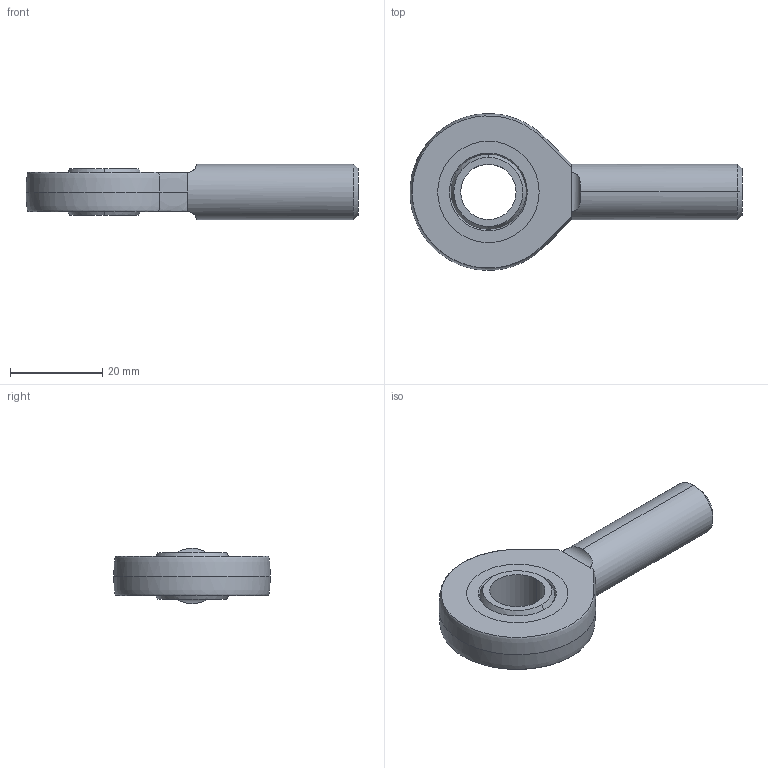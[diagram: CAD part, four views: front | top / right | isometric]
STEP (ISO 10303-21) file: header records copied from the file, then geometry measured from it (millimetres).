
FILE_DESCRIPTION (( 'STEP AP214' ), '1' );
FILE_NAME ('HL-3-003 200kg-1t.STEP', '2023-06-02T14:45:55', ( '' ), ( '' ), 'SwSTEP 2.0', 'SolidWorks 2022', '' );
FILE_SCHEMA (( 'AUTOMOTIVE_DESIGN' ));
Length unit declared in the file: millimetre
Products named in the file (4): HL-3-003 200kg-1t Rod end; HL-3-003 200kg-1t Rod end part3; HL-3-003 200kg-1t Rod end part2; HL-3-003 200kg-1t
Assembly tree (3 placements, depth 2):
  HL-3-003 200kg-1t
    HL-3-003 200kg-1t Rod end
    HL-3-003 200kg-1t Rod end part2
    HL-3-003 200kg-1t Rod end part3
Bounding box: 72 x 33.99 x 12 mm (x, y, z)
Volume: 11120.8 mm3; surface area: 6388.6 mm2
Topology: 3 solids, 3 shells, 35 faces, 89 edges, 56 vertices
Faces by surface type: cylinder 10, plane 9, cone 6, bspline 6, sphere 4
Entity records: 1636 total; most frequent: CARTESIAN_POINT 701, DIRECTION 166, ORIENTED_EDGE 158, EDGE_CURVE 79, AXIS2_PLACEMENT_3D 73, VERTEX_POINT 50, EDGE_LOOP 41, CIRCLE 38
